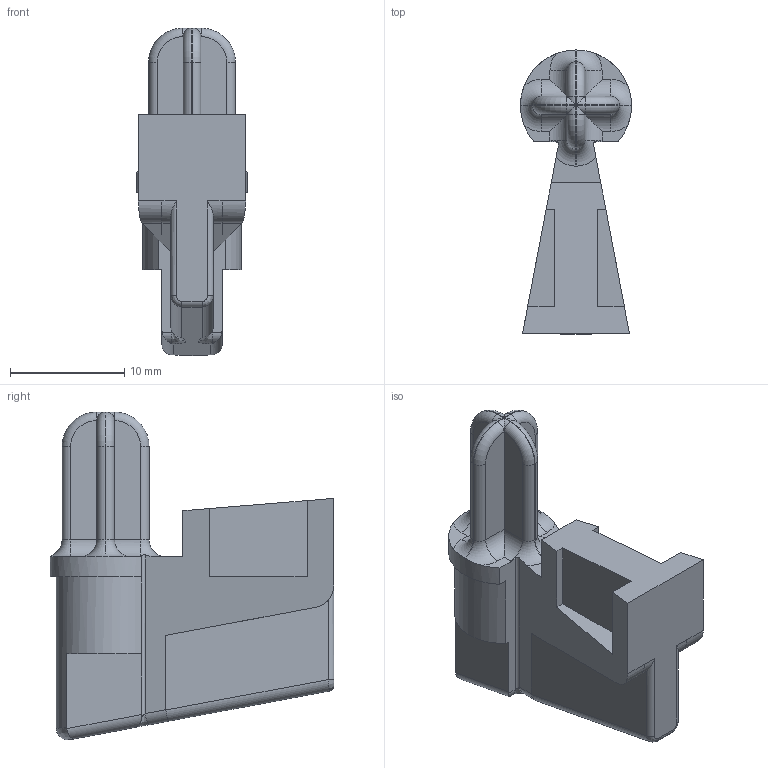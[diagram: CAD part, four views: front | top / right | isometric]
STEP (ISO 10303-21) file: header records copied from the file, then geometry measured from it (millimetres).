
FILE_DESCRIPTION(/* description */ (''),/* implementation_level */ '2;1');
FILE_NAME(/* name */ '//vboxsvr/bigsql-win-testing/CAD/DD2-GIT/freeman1337/cmmg-22lr-mag-25round/STEP/Follower -new-v1.step',/* time_stamp */ '2021-06-16T14:45:45-07:00',/* author */ (''),/* organization */ (''),/* preprocessor_version */ 'ST-DEVELOPER v18.1',/* originating_system */ 'Autodesk Translation Framework v10.9.0.1377',/* authorisation */ '');
FILE_SCHEMA (('AUTOMOTIVE_DESIGN { 1 0 10303 214 3 1 1 }'));
Length unit declared in the file: millimetre
Products named in the file (1): cmmg-25 round-Follower v6
Bounding box: 9.7 x 24.8 x 28.63 mm (x, y, z)
Volume: 2254.8 mm3; surface area: 1704.6 mm2
Topology: 1 solids, 1 shells, 123 faces, 313 edges, 192 vertices
Faces by surface type: cylinder 53, plane 48, torus 16, bspline 6
Entity records: 3976 total; most frequent: CARTESIAN_POINT 929, DIRECTION 656, ORIENTED_EDGE 626, EDGE_CURVE 313, AXIS2_PLACEMENT_3D 245, VERTEX_POINT 192, LINE 166, VECTOR 166
